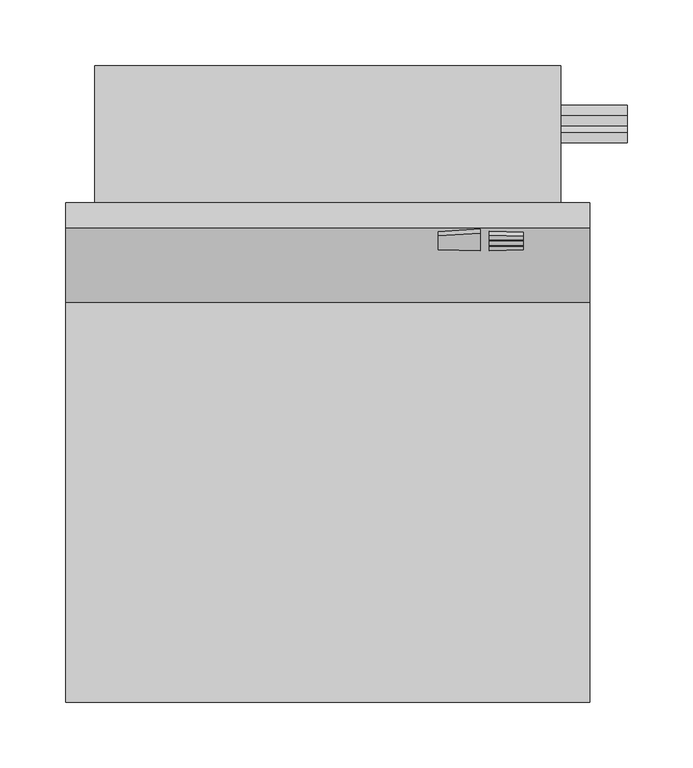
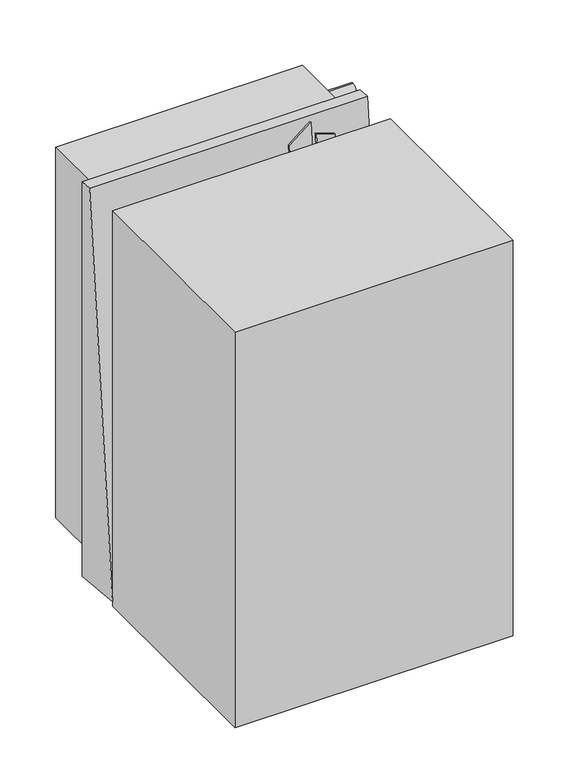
"""IFC4 building model written with IfcOpenShell, lengths in millimetres: proxy geometry, Exposed_Wall_Mounted_Fan_Coil_Unit_-_STY_-_IEC_-_2-Pipe_RH_2022 : Size 01 - 115V/60Hz/1Ph - 2 Row Coil."""

from ifc_helpers import new_model, si_unit, point, frame, frame_2d, origin, origin_with_axes, place, context, project, spatial, polyline, circle_curve, trimmed, segment, composite_curve, outline, extrude, source, transform, mapped, element, save
from ifc_brep_helpers import plane_surface, revolved_surface, advanced_brep


def mechanical_equipment_5d187f2d(model_context):
    return source(origin(), model_context, "Body", "SolidModel", [
        extrude(outline(polyline([(0.0, 0.0), (32.2582589, -104.3275129), (8.3214524, -135.826225), (-33.6762663, 0.0), (0.0, 0.0)])), frame((935.1118862, -375.3885352, 461.2981442), z_axis=(0.0, -0.9953961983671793, 0.09584575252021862), x_axis=(-0.9553727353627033, 0.028313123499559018, 0.2940430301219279)), (0.0, 0.0, 1.0), 3.175),
        extrude(outline(polyline([(-13.857677, -86.9743105), (-3.7871334, -119.543792), (-31.0868387, -119.543792), (-39.7211263, -91.6193542), (-13.857677, -86.9743105)])), frame((935.1118862, -375.3885352, 461.2981442), z_axis=(0.0, -0.9953961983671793, 0.09584575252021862), x_axis=(-0.9553727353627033, 0.028313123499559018, 0.2940430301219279)), (0.0, 0.0, 1.0), 3.175),
        extrude(outline(polyline([(-54.0957717, -45.1298332), (-62.4998666, -17.9498691), (-40.1329933, -1.9964319), (-30.2611188, -33.9233912), (-54.0957717, -45.1298332)])), frame((935.1118862, -375.3885352, 461.2981442), z_axis=(0.0, -0.9953961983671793, 0.09584575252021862), x_axis=(-0.9553727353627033, 0.028313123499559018, 0.2940430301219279)), (0.0, 0.0, 1.0), 3.175),
        extrude(outline(polyline([(-42.4819548, -82.6904665), (-51.6141784, -53.155637), (-27.5065034, -42.8321849), (-16.8904435, -77.1659389), (-42.4819548, -82.6904665)])), frame((935.1118862, -375.3885352, 461.2981442), z_axis=(0.0, -0.9953961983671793, 0.09584575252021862), x_axis=(-0.9553727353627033, 0.028313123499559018, 0.2940430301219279)), (0.0, 0.0, 1.0), 3.175),
        advanced_brep(
        [(1028.7, -342.9, 581.025), (1028.7, -342.9, 17.4625), (1028.7, -238.125, 17.4625), (1028.7, -238.125, 581.025), (1028.7, -288.925, 106.3625), (1028.7, -288.925, 80.9625), (673.1, -342.9, 581.025), (673.1, -238.125, 581.025), (673.1, -238.125, 17.4625), (673.1, -342.9, 17.4625), (1016.0, -288.925, 80.9625), (1016.0, -288.925, 106.3625)],
        [
            (0, 1),
            (1, 2),
            (2, 3),
            (3, 0),
            (4, 5, circle_curve(frame((1028.7, -288.925, 93.6625), z_axis=(-1.0, 0.0, 0.0), x_axis=(0.0, 0.0, 1.0)), 12.7)),
            (5, 4, circle_curve(frame((1028.7, -288.925, 93.6625), z_axis=(-1.0, 0.0, 0.0), x_axis=(0.0, 0.0, 1.0)), 12.7)),
            (6, 7),
            (7, 8),
            (8, 9),
            (9, 6),
            (0, 6),
            (9, 1),
            (8, 2),
            (7, 3),
            (10, 11, circle_curve(frame((1016.0, -288.925, 93.6625), z_axis=(1.0, 0.0, 0.0), x_axis=(0.0, 0.0, 1.0)), 12.7)),
            (11, 10, circle_curve(frame((1016.0, -288.925, 93.6625), z_axis=(1.0, 0.0, 0.0), x_axis=(0.0, 0.0, 1.0)), 12.7)),
            (10, 5),
            (4, 11),
        ],
        [
            plane_surface(frame((1028.7, -342.9, 581.025), z_axis=(1.0, 0.0, 0.0), x_axis=(0.0, 0.0, -1.0))),
            plane_surface(frame((673.1, -342.9, 581.025), z_axis=(-1.0, 0.0, 0.0), x_axis=(0.0, 0.0, 1.0))),
            plane_surface(frame((1028.7, -342.9, 581.025), z_axis=(0.0, -1.0, 0.0), x_axis=(-1.0, 0.0, 0.0))),
            plane_surface(frame((1028.7, -342.9, 17.4625), z_axis=(0.0, 0.0, -1.0), x_axis=(-1.0, 0.0, 0.0))),
            plane_surface(frame((1028.7, -238.125, 17.4625), z_axis=(0.0, 1.0, 0.0), x_axis=(-1.0, 0.0, 0.0))),
            plane_surface(frame((1028.7, -238.125, 581.025), z_axis=(0.0, 0.0, 1.0), x_axis=(-1.0, 0.0, 0.0))),
            plane_surface(frame((1016.0, -288.925, 106.3625), z_axis=(1.0, 0.0, 0.0), x_axis=(0.0, 1.0, 0.0))),
            revolved_surface(polyline([(1028.7, -288.925, 106.3625), (1016.0, -288.925, 106.3625)]), (1016.0, -288.925, 93.6625), (1.0, 0.0, 0.0)),
        ],
        [
            (0, [[1, 2, 3, 4], [5, 6]]),
            (1, [[7, 8, 9, 10]]),
            (2, [[-1, 11, -10, 12]]),
            (3, [[-2, -12, -9, 13]]),
            (4, [[-3, -13, -8, 14]]),
            (5, [[-4, -14, -7, -11]]),
            (6, [[15, 16]]),
            (7, [[-15, 17, -5, 18]]),
            (7, [[-16, -18, -6, -17]]),
        ],
    ),
        extrude(outline(polyline([(-342.9, 599.8356093), (-342.9, 0.0), (-419.1, 7.3372255), (-361.872985, 601.6625), (-342.9, 599.8356093)])), frame((650.875, 0.0, 0.0), z_axis=(1.0, 0.0, 0.0), x_axis=(0.0, 1.0, 0.0)), (0.0, 0.0, 1.0), 400.05),
        extrude(outline(composite_curve([segment(trimmed(circle_curve(frame_2d((-276.225, 550.8625)), 7.9375), [point((-276.225, 542.925))], [point((-276.225, 558.8))], False, "CARTESIAN"), True, "CONTINUOUS"), segment(trimmed(circle_curve(frame_2d((-276.225, 550.8625)), 7.9375), [point((-276.225, 558.8))], [point((-276.225, 542.925))], False, "CARTESIAN"), True, "CONTINUOUS")], self_intersect=False)), frame((1028.7, 0.0, 0.0), z_axis=(1.0, 0.0, 0.0), x_axis=(0.0, 1.0, 0.0)), (0.0, 0.0, 1.0), 50.8),
        extrude(outline(composite_curve([segment(trimmed(circle_curve(frame_2d((-276.225, 398.4625)), 7.9375), [point((-276.225, 390.525))], [point((-276.225, 406.4))], False, "CARTESIAN"), True, "CONTINUOUS"), segment(trimmed(circle_curve(frame_2d((-276.225, 398.4625)), 7.9375), [point((-276.225, 406.4))], [point((-276.225, 390.525))], False, "CARTESIAN"), True, "CONTINUOUS")], self_intersect=False)), frame((1028.7, 0.0, 0.0), z_axis=(1.0, 0.0, 0.0), x_axis=(0.0, 1.0, 0.0)), (0.0, 0.0, 1.0), 50.8),
        extrude(outline(composite_curve([segment(trimmed(circle_curve(frame_2d((-288.925, 271.4625)), 7.9375), [point((-288.925, 263.525))], [point((-288.925, 279.4))], False, "CARTESIAN"), True, "CONTINUOUS"), segment(trimmed(circle_curve(frame_2d((-288.925, 271.4625)), 7.9375), [point((-288.925, 279.4))], [point((-288.925, 263.525))], False, "CARTESIAN"), True, "CONTINUOUS")], self_intersect=False)), frame((1028.7, 0.0, 0.0), z_axis=(1.0, 0.0, 0.0), x_axis=(0.0, 1.0, 0.0)), (0.0, 0.0, 1.0), 50.8),
        extrude(outline(polyline([(1050.925, -419.1), (1050.925, -723.9), (650.875, -723.9), (650.875, -419.1), (1050.925, -419.1)])), origin_with_axes(), (0.0, 0.0, 1.0), 601.6625),
    ])


if __name__ == "__main__":
    model = new_model("IFC4")
    model_context = context("Model", 3, world=origin())
    ifc_project = project(units=[si_unit("LENGTHUNIT", "METRE", prefix="MILLI")], contexts=[model_context])
    site = spatial("IfcSite", under=ifc_project)
    building = spatial("IfcBuilding", under=site)
    placement = place(None, origin())
    mechanical_equipment_shape = mechanical_equipment_5d187f2d(model_context)
    element("IfcBuildingElementProxy", 1, Name="Exposed_Wall_Mounted_Fan_Coil_Unit_-_STY_-_IEC_-_2-Pipe_RH_2022 : Size 01 - 115V/60Hz/1Ph - 2 Row Coil", ObjectType="Exposed_Wall_Mounted_Fan_Coil_Unit_-_STY_-_IEC_-_2-Pipe_RH_2022 : Size 01 - 115V/60Hz/1Ph - 2 Row Coil", at=placement, inside=building, context=model_context, shape_type="MappedRepresentation", body=[
        mapped(mechanical_equipment_shape, transform((0.0, 0.0, 0.0), x_axis=(1.0, 0.0, 0.0), y_axis=(0.0, 1.0, 0.0), z_axis=(0.0, 0.0, 1.0))),
    ])
    save(model, "model.ifc")
